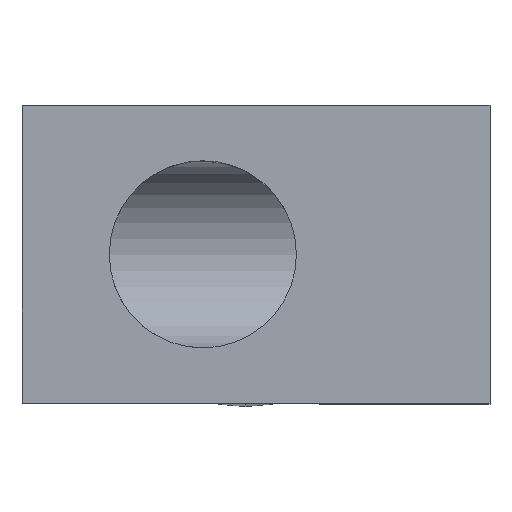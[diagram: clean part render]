
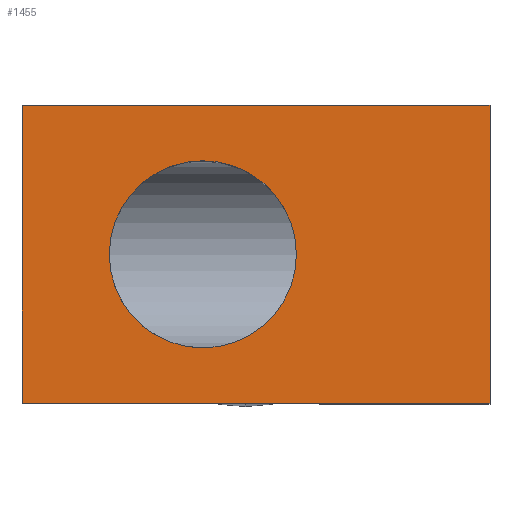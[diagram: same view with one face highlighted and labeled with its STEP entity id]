
A CAD part, top view. The second image highlights one B-rep face of the part: STEP entity #1455.
In plain terms, the highlighted planar face has unit normal (0, 0, 1) as drawn and (0, 1, 0) by its records, which use the part's own axes.
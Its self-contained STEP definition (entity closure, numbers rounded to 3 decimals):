
#148 = CIRCLE ( 'NONE', #6508, 4.4 ) ;
#188 = DIRECTION ( 'NONE',  ( -1., 0., 0. ) ) ;
#323 = VECTOR ( 'NONE', #6189, 1000. ) ;
#391 = CARTESIAN_POINT ( 'NONE',  ( -39.849, 42.459, -11. ) ) ;
#464 = DIRECTION ( 'NONE',  ( 0., 0., -1. ) ) ;
#559 = CARTESIAN_POINT ( 'NONE',  ( -39.849, 42.459, 0. ) ) ;
#625 = AXIS2_PLACEMENT_3D ( 'NONE', #391, #3870, #7321 ) ;
#838 = ORIENTED_EDGE ( 'NONE', *, *, #3007, .T. ) ;
#931 = CARTESIAN_POINT ( 'NONE',  ( -25.849, 42.459, 11. ) ) ;
#1067 = VERTEX_POINT ( 'NONE', #931 ) ;
#1159 = DIRECTION ( 'NONE',  ( -1., 0., 0. ) ) ;
#1408 = AXIS2_PLACEMENT_3D ( 'NONE', #3138, #3099, #188 ) ;
#1455 = ADVANCED_FACE ( 'NONE', ( #2117, #3297 ), #7252, .T. ) ;
#1488 = LINE ( 'NONE', #5069, #7035 ) ;
#1529 = CIRCLE ( 'NONE', #1408, 4.4 ) ;
#1968 = EDGE_CURVE ( 'NONE', #2991, #6248, #4562, .T. ) ;
#2038 = ORIENTED_EDGE ( 'NONE', *, *, #1968, .T. ) ;
#2117 = FACE_BOUND ( 'NONE', #3470, .T. ) ;
#2132 = CARTESIAN_POINT ( 'NONE',  ( -37.249, 42.459, 2.5 ) ) ;
#2140 = CARTESIAN_POINT ( 'NONE',  ( -32.849, 42.459, 11. ) ) ;
#2154 = CARTESIAN_POINT ( 'NONE',  ( -39.849, 42.459, 11. ) ) ;
#2279 = ORIENTED_EDGE ( 'NONE', *, *, #4075, .T. ) ;
#2282 = CARTESIAN_POINT ( 'NONE',  ( -25.849, 42.459, -11. ) ) ;
#2330 = VERTEX_POINT ( 'NONE', #2132 ) ;
#2386 = CARTESIAN_POINT ( 'NONE',  ( -32.849, 42.459, 2.5 ) ) ;
#2522 = VECTOR ( 'NONE', #3469, 1000. ) ;
#2793 = DIRECTION ( 'NONE',  ( 1., 0., 0. ) ) ;
#2991 = VERTEX_POINT ( 'NONE', #4239 ) ;
#3007 = EDGE_CURVE ( 'NONE', #6248, #1067, #7347, .T. ) ;
#3099 = DIRECTION ( 'NONE',  ( 0., 1., 0. ) ) ;
#3138 = CARTESIAN_POINT ( 'NONE',  ( -32.849, 42.459, 2.5 ) ) ;
#3297 = FACE_OUTER_BOUND ( 'NONE', #3557, .T. ) ;
#3469 = DIRECTION ( 'NONE',  ( 0., 0., 1. ) ) ;
#3470 = EDGE_LOOP ( 'NONE', ( #6426, #4070 ) ) ;
#3508 = DIRECTION ( 'NONE',  ( 0., 1., 0. ) ) ;
#3557 = EDGE_LOOP ( 'NONE', ( #838, #4606, #2279, #2038 ) ) ;
#3740 = EDGE_CURVE ( 'NONE', #2330, #6459, #148, .T. ) ;
#3870 = DIRECTION ( 'NONE',  ( 0., 1., 0. ) ) ;
#3961 = LINE ( 'NONE', #4976, #323 ) ;
#4070 = ORIENTED_EDGE ( 'NONE', *, *, #6910, .F. ) ;
#4075 = EDGE_CURVE ( 'NONE', #6864, #2991, #3961, .T. ) ;
#4239 = CARTESIAN_POINT ( 'NONE',  ( -39.849, 42.459, -11. ) ) ;
#4562 = LINE ( 'NONE', #559, #2522 ) ;
#4606 = ORIENTED_EDGE ( 'NONE', *, *, #4985, .T. ) ;
#4976 = CARTESIAN_POINT ( 'NONE',  ( -32.849, 42.459, -11. ) ) ;
#4985 = EDGE_CURVE ( 'NONE', #1067, #6864, #1488, .T. ) ;
#5069 = CARTESIAN_POINT ( 'NONE',  ( -25.849, 42.459, 0. ) ) ;
#5514 = VECTOR ( 'NONE', #2793, 1000. ) ;
#5934 = CARTESIAN_POINT ( 'NONE',  ( -28.449, 42.459, 2.5 ) ) ;
#6189 = DIRECTION ( 'NONE',  ( -1., 0., 0. ) ) ;
#6248 = VERTEX_POINT ( 'NONE', #2154 ) ;
#6426 = ORIENTED_EDGE ( 'NONE', *, *, #3740, .F. ) ;
#6459 = VERTEX_POINT ( 'NONE', #5934 ) ;
#6508 = AXIS2_PLACEMENT_3D ( 'NONE', #2386, #3508, #1159 ) ;
#6864 = VERTEX_POINT ( 'NONE', #2282 ) ;
#6910 = EDGE_CURVE ( 'NONE', #6459, #2330, #1529, .T. ) ;
#7035 = VECTOR ( 'NONE', #464, 1000. ) ;
#7252 = PLANE ( 'NONE',  #625 ) ;
#7321 = DIRECTION ( 'NONE',  ( 0., 0., 1. ) ) ;
#7347 = LINE ( 'NONE', #2140, #5514 ) ;
